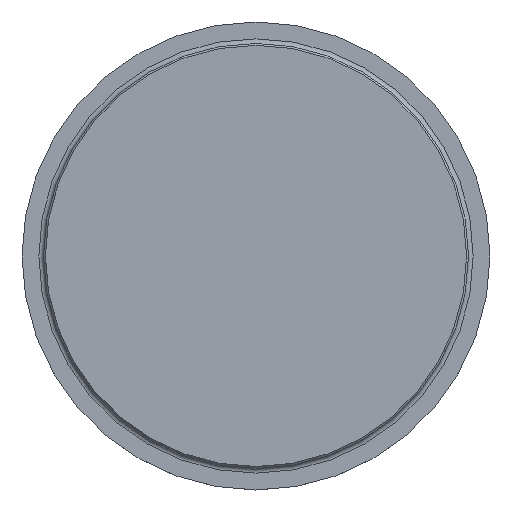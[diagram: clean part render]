
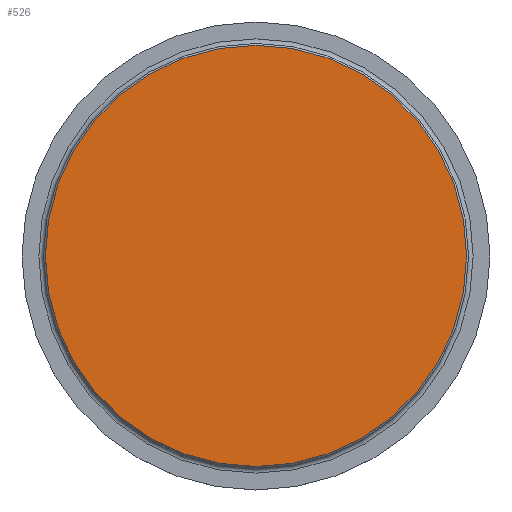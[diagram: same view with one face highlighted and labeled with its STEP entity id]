
A CAD part, top view. The second image highlights one B-rep face of the part: STEP entity #526.
In plain terms, the highlighted planar face has unit normal (0, 0, 1).
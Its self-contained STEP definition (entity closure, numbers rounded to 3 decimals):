
#526=ADVANCED_FACE('',(#561),#545,.T.);
#545=PLANE('',#1200);
#561=FACE_OUTER_BOUND('',#618,.T.);
#618=EDGE_LOOP('',(#858));
#858=ORIENTED_EDGE('',*,*,#1096,.T.);
#976=VERTEX_POINT('',#1801);
#1096=EDGE_CURVE('',#976,#976,#1131,.T.);
#1131=CIRCLE('',#1199,11.25);
#1199=AXIS2_PLACEMENT_3D('',#1800,#1378,#1379);
#1200=AXIS2_PLACEMENT_3D('',#1802,#1380,#1381);
#1378=DIRECTION('',(0.,0.,1.));
#1379=DIRECTION('',(1.,0.,0.));
#1380=DIRECTION('',(0.,0.,1.));
#1381=DIRECTION('',(0.,-1.,0.));
#1800=CARTESIAN_POINT('',(0.,0.,1.15));
#1801=CARTESIAN_POINT('',(11.25,0.,1.15));
#1802=CARTESIAN_POINT('',(0.,0.,1.15));
